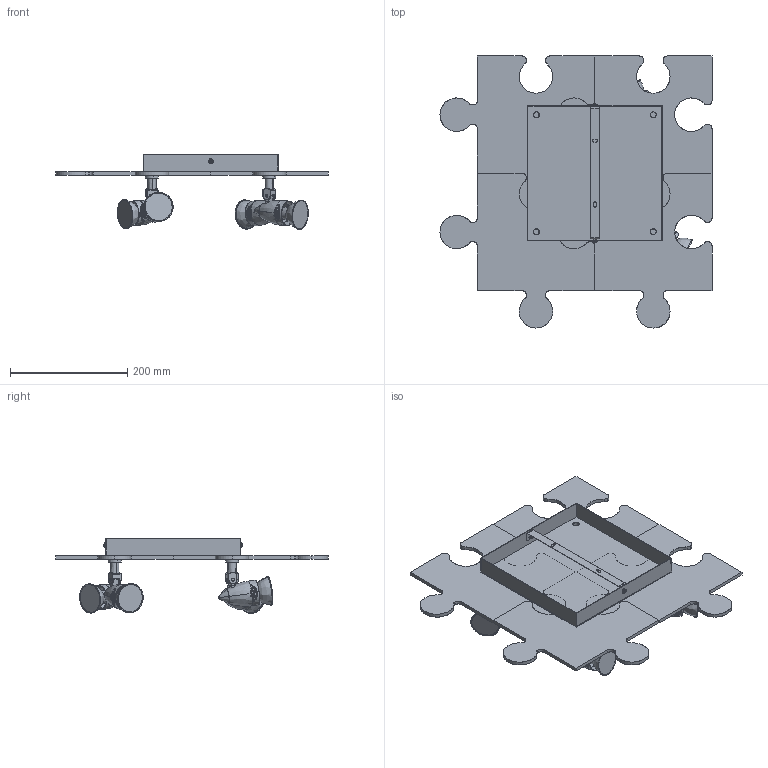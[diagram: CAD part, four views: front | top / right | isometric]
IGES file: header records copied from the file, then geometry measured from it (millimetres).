
Start section: SolidWorks IGES file using analytic representation for surfaces
Global section: file name: E:\3D lampy\Puzzle\Puzzle_6382,6384,9728.IGS; native system: SolidWorks 2016; preprocessor: SolidWorks 2016; author: Asia; date: 170621.141536; units: millimetre
Bounding box: 463.5 x 463.5 x 127.18 mm (x, y, z)
Surface area: 634340.5 mm2 (no closed solid volume)
Topology: 0 solids, 0 shells, 1149 faces, 19605 edges, 19545 vertices
Faces by surface type: revolution 656, bspline 493
